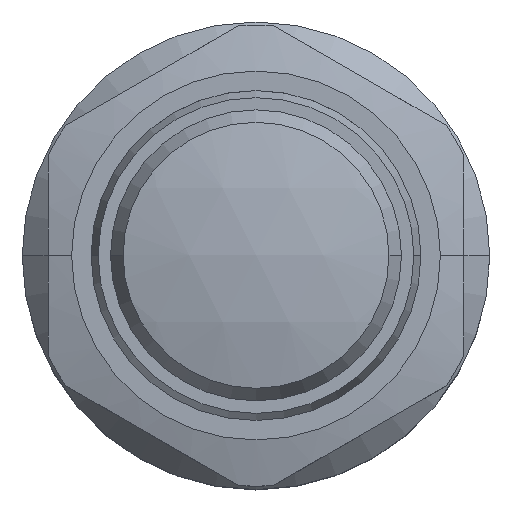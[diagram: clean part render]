
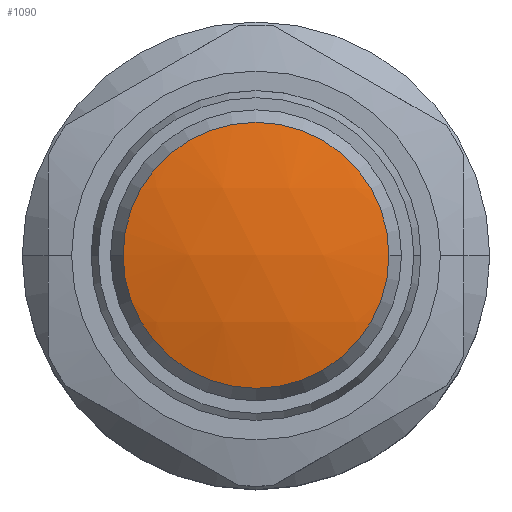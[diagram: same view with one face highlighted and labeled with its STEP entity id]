
A CAD part, top view. The second image highlights one B-rep face of the part: STEP entity #1090.
In plain terms, the highlighted spherical face has radius 40 mm.
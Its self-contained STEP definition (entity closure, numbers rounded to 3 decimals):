
#104 = AXIS2_PLACEMENT_3D ( 'NONE', #1193, #1199, #1200 ) ;
#141 = AXIS2_PLACEMENT_3D ( 'NONE', #1295, #1296, #1297 ) ;
#142 = CIRCLE ( 'NONE', #141, 10.237 ) ;
#146 = CIRCLE ( 'NONE', #149, 10.237 ) ;
#148 = CIRCLE ( 'NONE', #151, 40. ) ;
#149 = AXIS2_PLACEMENT_3D ( 'NONE', #1306, #1307, #1308 ) ;
#150 = CIRCLE ( 'NONE', #153, 40. ) ;
#151 = AXIS2_PLACEMENT_3D ( 'NONE', #1309, #1310, #1311 ) ;
#153 = AXIS2_PLACEMENT_3D ( 'NONE', #1312, #1313, #1314 ) ;
#264 = CARTESIAN_POINT ( 'NONE',  ( -10.237, 0., 12.168 ) ) ;
#284 = CARTESIAN_POINT ( 'NONE',  ( -10.237, 0., 12.168 ) ) ;
#292 = CARTESIAN_POINT ( 'NONE',  ( 0., 0., 13.5 ) ) ;
#295 = CARTESIAN_POINT ( 'NONE',  ( 10.237, 0., 12.168 ) ) ;
#762 = EDGE_LOOP ( 'NONE', ( #2278, #2279, #2280, #2281, #2282, #2283 ) ) ;
#1090 = ADVANCED_FACE ( 'NONE', ( #1195 ), #1196, .T. ) ;
#1112 = EDGE_CURVE ( 'NONE', #2114, #2094, #142, .T. ) ;
#1117 = EDGE_CURVE ( 'NONE', #2094, #2114, #146, .T. ) ;
#1193 = CARTESIAN_POINT ( 'NONE',  ( 0., 0., -26.5 ) ) ;
#1195 = FACE_OUTER_BOUND ( 'NONE', #762, .T. ) ;
#1196 = SPHERICAL_SURFACE ( 'NONE', #104, 40. ) ;
#1199 = DIRECTION ( 'NONE',  ( 0., 1., 0. ) ) ;
#1200 = DIRECTION ( 'NONE',  ( 1., 0., 0. ) ) ;
#1295 = CARTESIAN_POINT ( 'NONE',  ( 0., 0., 12.168 ) ) ;
#1296 = DIRECTION ( 'NONE',  ( 0., 0., 1. ) ) ;
#1297 = DIRECTION ( 'NONE',  ( 1., 0., 0. ) ) ;
#1306 = CARTESIAN_POINT ( 'NONE',  ( 0., 0., 12.168 ) ) ;
#1307 = DIRECTION ( 'NONE',  ( 0., 0., 1. ) ) ;
#1308 = DIRECTION ( 'NONE',  ( 1., 0., 0. ) ) ;
#1309 = CARTESIAN_POINT ( 'NONE',  ( 0., 0., -26.5 ) ) ;
#1310 = DIRECTION ( 'NONE',  ( 0., -1., 0. ) ) ;
#1311 = DIRECTION ( 'NONE',  ( 0., 0., -1. ) ) ;
#1312 = CARTESIAN_POINT ( 'NONE',  ( 0., 0., -26.5 ) ) ;
#1313 = DIRECTION ( 'NONE',  ( 0., 1., 0. ) ) ;
#1314 = DIRECTION ( 'NONE',  ( -1., 0., 0. ) ) ;
#1366 = EDGE_CURVE ( 'NONE', #2114, #2104, #148, .T. ) ;
#1367 = EDGE_CURVE ( 'NONE', #2058, #2104, #150, .T. ) ;
#2058 = VERTEX_POINT ( 'NONE', #264 ) ;
#2094 = VERTEX_POINT ( 'NONE', #284 ) ;
#2104 = VERTEX_POINT ( 'NONE', #292 ) ;
#2114 = VERTEX_POINT ( 'NONE', #295 ) ;
#2278 = ORIENTED_EDGE ( 'NONE', *, *, #1112, .T. ) ;
#2279 = ORIENTED_EDGE ( 'NONE', *, *, #1117, .T. ) ;
#2280 = ORIENTED_EDGE ( 'NONE', *, *, #1366, .T. ) ;
#2281 = ORIENTED_EDGE ( 'NONE', *, *, #1367, .F. ) ;
#2282 = ORIENTED_EDGE ( 'NONE', *, *, #1367, .T. ) ;
#2283 = ORIENTED_EDGE ( 'NONE', *, *, #1366, .F. ) ;
